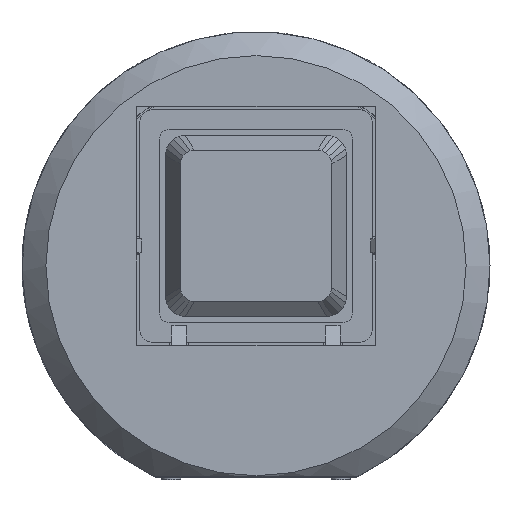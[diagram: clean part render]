
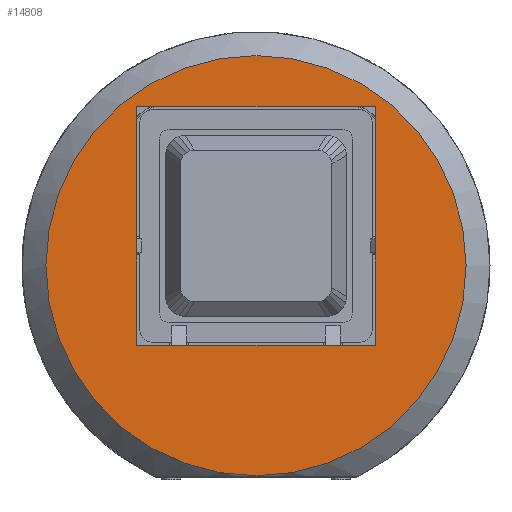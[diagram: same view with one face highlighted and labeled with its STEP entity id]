
A CAD part, top view. The second image highlights one B-rep face of the part: STEP entity #14808.
In plain terms, the highlighted planar face has unit normal (0, 0, 1).
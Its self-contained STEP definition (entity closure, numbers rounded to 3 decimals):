
#133 = CONICAL_SURFACE('',#134,23.5,0.785);
#134 = AXIS2_PLACEMENT_3D('',#135,#136,#137);
#135 = CARTESIAN_POINT('',(0.,0.,21.));
#136 = DIRECTION('',(-0.,-0.,-1.));
#137 = DIRECTION('',(1.,0.,0.));
#9410 = PLANE('',#9411);
#9411 = AXIS2_PLACEMENT_3D('',#9412,#9413,#9414);
#9412 = CARTESIAN_POINT('',(-12.,-8.,14.9));
#9413 = DIRECTION('',(1.,0.,0.));
#9414 = DIRECTION('',(0.,0.,1.));
#9787 = VERTEX_POINT('',#9788);
#9788 = CARTESIAN_POINT('',(-12.,-8.,23.4));
#9802 = PLANE('',#9803);
#9803 = AXIS2_PLACEMENT_3D('',#9804,#9805,#9806);
#9804 = CARTESIAN_POINT('',(-12.,-8.,14.9));
#9805 = DIRECTION('',(0.,1.,0.));
#9806 = DIRECTION('',(0.,0.,1.));
#9935 = VERTEX_POINT('',#9936);
#9936 = CARTESIAN_POINT('',(-12.,16.,23.4));
#9950 = PLANE('',#9951);
#9951 = AXIS2_PLACEMENT_3D('',#9952,#9953,#9954);
#9952 = CARTESIAN_POINT('',(-12.,16.,14.9));
#9953 = DIRECTION('',(0.,1.,0.));
#9954 = DIRECTION('',(0.,0.,1.));
#9962 = EDGE_CURVE('',#9787,#9935,#9963,.T.);
#9963 = SURFACE_CURVE('',#9964,(#9968,#9975),.PCURVE_S1.);
#9964 = LINE('',#9965,#9966);
#9965 = CARTESIAN_POINT('',(-12.,-4.,23.4));
#9966 = VECTOR('',#9967,1.);
#9967 = DIRECTION('',(0.,1.,0.));
#9968 = PCURVE('',#9410,#9969);
#9969 = DEFINITIONAL_REPRESENTATION('',(#9970),#9974);
#9970 = LINE('',#9971,#9972);
#9971 = CARTESIAN_POINT('',(8.5,-4.));
#9972 = VECTOR('',#9973,1.);
#9973 = DIRECTION('',(0.,-1.));
#9974 = ( GEOMETRIC_REPRESENTATION_CONTEXT(2) 
PARAMETRIC_REPRESENTATION_CONTEXT() REPRESENTATION_CONTEXT('2D SPACE',''
  ) );
#9975 = PCURVE('',#9976,#9981);
#9976 = PLANE('',#9977);
#9977 = AXIS2_PLACEMENT_3D('',#9978,#9979,#9980);
#9978 = CARTESIAN_POINT('',(0.,0.,23.4)
  );
#9979 = DIRECTION('',(0.,0.,1.));
#9980 = DIRECTION('',(1.,0.,-0.));
#9981 = DEFINITIONAL_REPRESENTATION('',(#9982),#9986);
#9982 = LINE('',#9983,#9984);
#9983 = CARTESIAN_POINT('',(-12.,-4.));
#9984 = VECTOR('',#9985,1.);
#9985 = DIRECTION('',(0.,1.));
#9986 = ( GEOMETRIC_REPRESENTATION_CONTEXT(2) 
PARAMETRIC_REPRESENTATION_CONTEXT() REPRESENTATION_CONTEXT('2D SPACE',''
  ) );
#10334 = PLANE('',#10335);
#10335 = AXIS2_PLACEMENT_3D('',#10336,#10337,#10338);
#10336 = CARTESIAN_POINT('',(12.,-8.,14.9));
#10337 = DIRECTION('',(1.,0.,0.));
#10338 = DIRECTION('',(0.,0.,1.));
#11219 = VERTEX_POINT('',#11220);
#11220 = CARTESIAN_POINT('',(12.,-8.,23.4));
#11399 = VERTEX_POINT('',#11400);
#11400 = CARTESIAN_POINT('',(12.,16.,23.4));
#11421 = EDGE_CURVE('',#11219,#11399,#11422,.T.);
#11422 = SURFACE_CURVE('',#11423,(#11427,#11434),.PCURVE_S1.);
#11423 = LINE('',#11424,#11425);
#11424 = CARTESIAN_POINT('',(12.,-4.,23.4));
#11425 = VECTOR('',#11426,1.);
#11426 = DIRECTION('',(0.,1.,0.));
#11427 = PCURVE('',#10334,#11428);
#11428 = DEFINITIONAL_REPRESENTATION('',(#11429),#11433);
#11429 = LINE('',#11430,#11431);
#11430 = CARTESIAN_POINT('',(8.5,-4.));
#11431 = VECTOR('',#11432,1.);
#11432 = DIRECTION('',(0.,-1.));
#11433 = ( GEOMETRIC_REPRESENTATION_CONTEXT(2) 
PARAMETRIC_REPRESENTATION_CONTEXT() REPRESENTATION_CONTEXT('2D SPACE',''
  ) );
#11434 = PCURVE('',#9976,#11435);
#11435 = DEFINITIONAL_REPRESENTATION('',(#11436),#11440);
#11436 = LINE('',#11437,#11438);
#11437 = CARTESIAN_POINT('',(12.,-4.));
#11438 = VECTOR('',#11439,1.);
#11439 = DIRECTION('',(0.,1.));
#11440 = ( GEOMETRIC_REPRESENTATION_CONTEXT(2) 
PARAMETRIC_REPRESENTATION_CONTEXT() REPRESENTATION_CONTEXT('2D SPACE',''
  ) );
#14789 = EDGE_CURVE('',#11399,#9935,#14790,.T.);
#14790 = SURFACE_CURVE('',#14791,(#14795,#14801),.PCURVE_S1.);
#14791 = LINE('',#14792,#14793);
#14792 = CARTESIAN_POINT('',(-6.,16.,23.4));
#14793 = VECTOR('',#14794,1.);
#14794 = DIRECTION('',(-1.,0.,0.));
#14795 = PCURVE('',#9950,#14796);
#14796 = DEFINITIONAL_REPRESENTATION('',(#14797),#14800);
#14797 = B_SPLINE_CURVE_WITH_KNOTS('',1,(#14798,#14799),.UNSPECIFIED.,
  .F.,.F.,(2,2),(-18.,6.),.PIECEWISE_BEZIER_KNOTS.);
#14798 = CARTESIAN_POINT('',(8.5,24.));
#14799 = CARTESIAN_POINT('',(8.5,0.));
#14800 = ( GEOMETRIC_REPRESENTATION_CONTEXT(2) 
PARAMETRIC_REPRESENTATION_CONTEXT() REPRESENTATION_CONTEXT('2D SPACE',''
  ) );
#14801 = PCURVE('',#9976,#14802);
#14802 = DEFINITIONAL_REPRESENTATION('',(#14803),#14807);
#14803 = LINE('',#14804,#14805);
#14804 = CARTESIAN_POINT('',(-6.,16.));
#14805 = VECTOR('',#14806,1.);
#14806 = DIRECTION('',(-1.,0.));
#14807 = ( GEOMETRIC_REPRESENTATION_CONTEXT(2) 
PARAMETRIC_REPRESENTATION_CONTEXT() REPRESENTATION_CONTEXT('2D SPACE',''
  ) );
#14808 = ADVANCED_FACE('',(#14809,#14839),#9976,.T.);
#14809 = FACE_BOUND('',#14810,.T.);
#14810 = EDGE_LOOP('',(#14811));
#14811 = ORIENTED_EDGE('',*,*,#14812,.F.);
#14812 = EDGE_CURVE('',#14813,#14813,#14815,.T.);
#14813 = VERTEX_POINT('',#14814);
#14814 = CARTESIAN_POINT('',(21.1,0.,23.4));
#14815 = SURFACE_CURVE('',#14816,(#14821,#14832),.PCURVE_S1.);
#14816 = CIRCLE('',#14817,21.1);
#14817 = AXIS2_PLACEMENT_3D('',#14818,#14819,#14820);
#14818 = CARTESIAN_POINT('',(0.,0.,
    23.4));
#14819 = DIRECTION('',(-0.,0.,-1.));
#14820 = DIRECTION('',(1.,0.,-0.));
#14821 = PCURVE('',#9976,#14822);
#14822 = DEFINITIONAL_REPRESENTATION('',(#14823),#14831);
#14823 = ( BOUNDED_CURVE() B_SPLINE_CURVE(2,(#14824,#14825,#14826,#14827
    ,#14828,#14829,#14830),.UNSPECIFIED.,.T.,.F.) 
B_SPLINE_CURVE_WITH_KNOTS((1,2,2,2,2,1),(-2.094,0.,
    2.094,4.189,6.283,8.378),
.UNSPECIFIED.) CURVE() GEOMETRIC_REPRESENTATION_ITEM() 
RATIONAL_B_SPLINE_CURVE((1.,0.5,1.,0.5,1.,0.5,1.)) REPRESENTATION_ITEM(
  '') );
#14824 = CARTESIAN_POINT('',(21.1,0.));
#14825 = CARTESIAN_POINT('',(21.1,-36.546));
#14826 = CARTESIAN_POINT('',(-10.55,-18.273));
#14827 = CARTESIAN_POINT('',(-42.2,0.));
#14828 = CARTESIAN_POINT('',(-10.55,18.273));
#14829 = CARTESIAN_POINT('',(21.1,36.546));
#14830 = CARTESIAN_POINT('',(21.1,0.));
#14831 = ( GEOMETRIC_REPRESENTATION_CONTEXT(2) 
PARAMETRIC_REPRESENTATION_CONTEXT() REPRESENTATION_CONTEXT('2D SPACE',''
  ) );
#14832 = PCURVE('',#133,#14833);
#14833 = DEFINITIONAL_REPRESENTATION('',(#14834),#14838);
#14834 = LINE('',#14835,#14836);
#14835 = CARTESIAN_POINT('',(-6.283,-2.4));
#14836 = VECTOR('',#14837,1.);
#14837 = DIRECTION('',(1.,-0.));
#14838 = ( GEOMETRIC_REPRESENTATION_CONTEXT(2) 
PARAMETRIC_REPRESENTATION_CONTEXT() REPRESENTATION_CONTEXT('2D SPACE',''
  ) );
#14839 = FACE_BOUND('',#14840,.T.);
#14840 = EDGE_LOOP('',(#14841,#14862,#14863,#14864));
#14841 = ORIENTED_EDGE('',*,*,#14842,.T.);
#14842 = EDGE_CURVE('',#11219,#9787,#14843,.T.);
#14843 = SURFACE_CURVE('',#14844,(#14848,#14855),.PCURVE_S1.);
#14844 = LINE('',#14845,#14846);
#14845 = CARTESIAN_POINT('',(-6.,-8.,23.4));
#14846 = VECTOR('',#14847,1.);
#14847 = DIRECTION('',(-1.,0.,0.));
#14848 = PCURVE('',#9976,#14849);
#14849 = DEFINITIONAL_REPRESENTATION('',(#14850),#14854);
#14850 = LINE('',#14851,#14852);
#14851 = CARTESIAN_POINT('',(-6.,-8.));
#14852 = VECTOR('',#14853,1.);
#14853 = DIRECTION('',(-1.,0.));
#14854 = ( GEOMETRIC_REPRESENTATION_CONTEXT(2) 
PARAMETRIC_REPRESENTATION_CONTEXT() REPRESENTATION_CONTEXT('2D SPACE',''
  ) );
#14855 = PCURVE('',#9802,#14856);
#14856 = DEFINITIONAL_REPRESENTATION('',(#14857),#14861);
#14857 = LINE('',#14858,#14859);
#14858 = CARTESIAN_POINT('',(8.5,6.));
#14859 = VECTOR('',#14860,1.);
#14860 = DIRECTION('',(0.,-1.));
#14861 = ( GEOMETRIC_REPRESENTATION_CONTEXT(2) 
PARAMETRIC_REPRESENTATION_CONTEXT() REPRESENTATION_CONTEXT('2D SPACE',''
  ) );
#14862 = ORIENTED_EDGE('',*,*,#9962,.T.);
#14863 = ORIENTED_EDGE('',*,*,#14789,.F.);
#14864 = ORIENTED_EDGE('',*,*,#11421,.F.);
